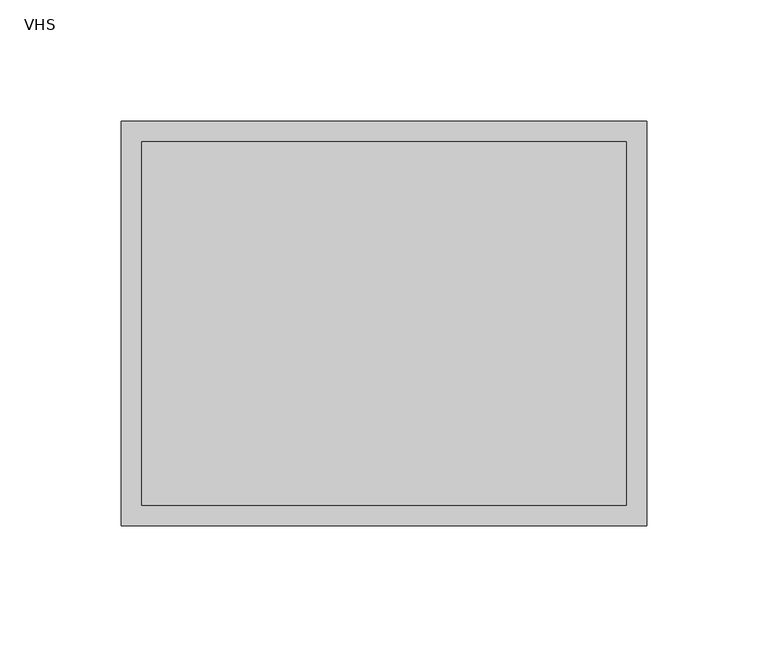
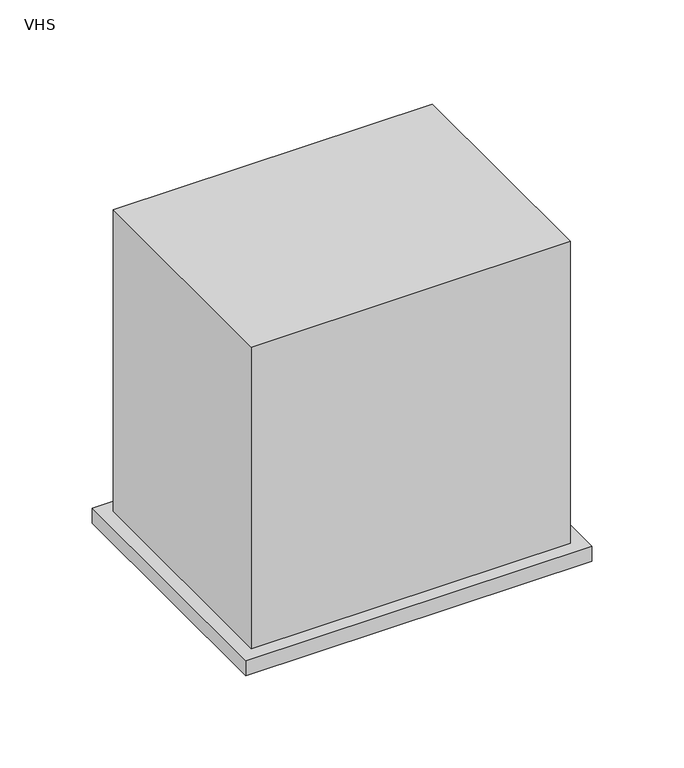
"""IFC4 building model written with IfcOpenShell, lengths in millimetres: air terminal geometry, 031_ユニバーサル形吹出口 : VHS."""

from ifc_helpers import new_model, si_unit, frame, origin, origin_with_axes, place, context, project, spatial, polyline, outline, extrude, source, transform, mapped, element, save


def vhs_7b1c42c7(model_context):
    return source(origin(), model_context, "Body", "SweptSolid", [
        extrude(outline(polyline([(100.0, 75.0), (100.0, -75.0), (-100.0, -75.0), (-100.0, 75.0), (100.0, 75.0)])), origin_with_axes(), (0.0, 0.0, 1.0), 200.0),
        extrude(outline(polyline([(108.5, -83.5), (-108.5, -83.5), (-108.5, 83.5), (108.5, 83.5), (108.5, -83.5)]), holes=[polyline([(100.0, -75.0), (100.0, 75.0), (-100.0, 75.0), (-100.0, -75.0), (100.0, -75.0)])]), frame((0.0, 0.0, -10.0), z_axis=(0.0, 0.0, 1.0), x_axis=(1.0, 0.0, 0.0)), (0.0, 0.0, 1.0), 10.0),
    ])


if __name__ == "__main__":
    model = new_model("IFC4")
    model_context = context("Model", 3, world=origin())
    ifc_project = project(units=[si_unit("LENGTHUNIT", "METRE", prefix="MILLI")], contexts=[model_context])
    site = spatial("IfcSite", under=ifc_project)
    building = spatial("IfcBuilding", under=site)
    placement = place(None, origin())
    vhs_shape = vhs_7b1c42c7(model_context)
    element("IfcAirTerminal", 1, ObjectType="031_ユニバーサル形吹出口 : VHS", at=placement, inside=building, context=model_context, shape_type="MappedRepresentation", body=[
        mapped(vhs_shape, transform((0.0, 0.0, 0.0), x_axis=(1.0, 0.0, 0.0), y_axis=(0.0, 1.0, 0.0), z_axis=(0.0, 0.0, 1.0))),
    ])
    save(model, "model.ifc")
